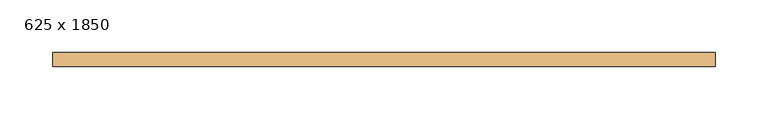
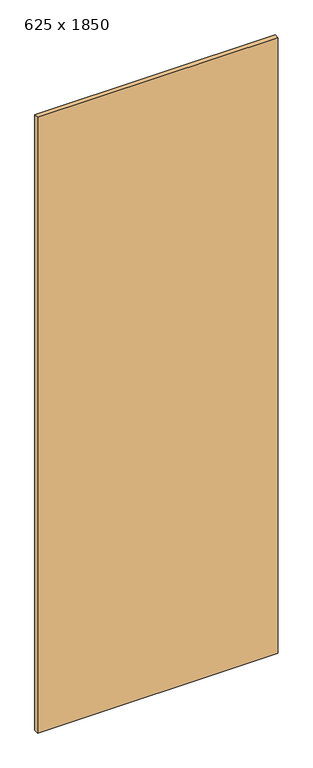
"""IFC4 building model written with IfcOpenShell, lengths in millimetres: door geometry, Door_Zeppelin-Rental-GmbH_Single-Leaf-Door_Sanitary : 625 x 1850."""

from ifc_helpers import new_model, si_unit, frame, origin, place, context, project, spatial, polyline, outline, extrude, source, transform, mapped, element, save


def door_625_x_1850_262aa099(model_context):
    return source(origin(), model_context, "Body", "SweptSolid", [
        extrude(outline(polyline([(312.5, 6.5), (312.5, -6.5), (-312.5, -6.5), (-312.5, 6.5), (312.5, 6.5)])), frame((0.0, 0.0, 160.0), z_axis=(0.0, 0.0, 1.0), x_axis=(1.0, 0.0, 0.0)), (0.0, 0.0, 1.0), 1690.0),
    ])


if __name__ == "__main__":
    model = new_model("IFC4")
    model_context = context("Model", 3, world=origin())
    ifc_project = project(units=[si_unit("LENGTHUNIT", "METRE", prefix="MILLI")], contexts=[model_context])
    site = spatial("IfcSite", under=ifc_project)
    building = spatial("IfcBuilding", under=site)
    placement = place(None, origin())
    door_625_x_1850_shape = door_625_x_1850_262aa099(model_context)
    element("IfcDoor", 1, ObjectType="Door_Zeppelin-Rental-GmbH_Single-Leaf-Door_Sanitary : 625 x 1850", at=placement, inside=building, context=model_context, shape_type="MappedRepresentation", body=[
        mapped(door_625_x_1850_shape, transform((0.0, 0.0, 0.0), x_axis=(1.0, 0.0, 0.0), y_axis=(0.0, 1.0, 0.0), z_axis=(0.0, 0.0, 1.0))),
    ])
    save(model, "model.ifc")
